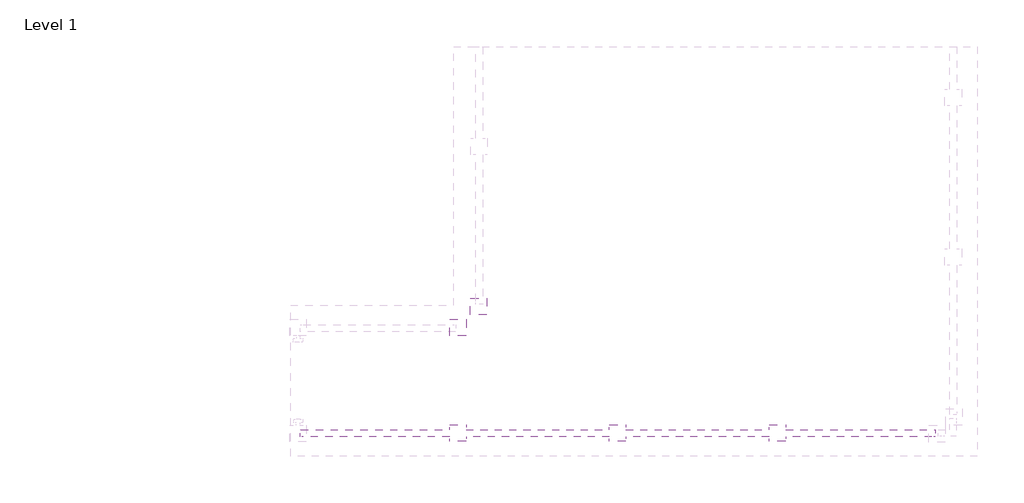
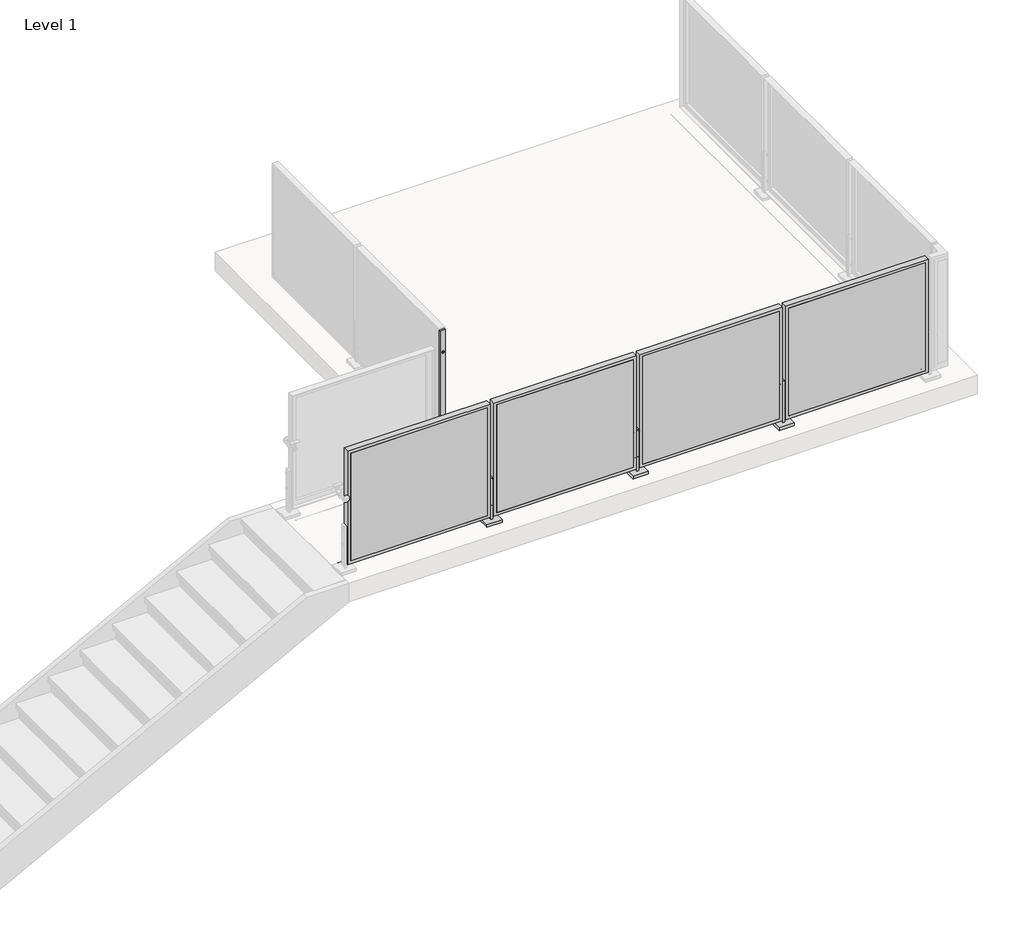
# One storey, part 8 of 37: 2 proxies, 1 railing.
"""IFC4 building model written with IfcOpenShell, lengths in millimetres."""

from ifc_helpers import new_model, si_unit, point, frame, frame_2d, origin, place, context, project, spatial, polyline, circle_curve, trimmed, segment, composite_curve, outline, extrude, faceted_brep, transform, mapped, element, save
from ifc_brep_helpers import plane_surface, cylinder_surface, advanced_brep
from components import baluster_end_post_viva_frame_top_mount_efd1a991, baluster_end_post_viva_frame_top_mount_8495f7c5

model = new_model("IFC4")

# Units and contexts
model_context = context("Model", 3, world=origin())
ifc_project = project(units=[si_unit("LENGTHUNIT", "METRE", prefix="MILLI")], contexts=[model_context])

# Site, building, storey
site = spatial("IfcSite", under=ifc_project)
building = spatial("IfcBuilding", under=site)
storey = spatial("IfcBuildingStorey", under=building, Name="Level 1", Elevation=0.0)

# Proxies
placement = place(None, origin())
baluster_end_post_viva_frame_top_mount_shape = baluster_end_post_viva_frame_top_mount_efd1a991(model_context)
element("IfcBuildingElementProxy", 1, Name="Baluster-End-Post-VIVA-FRAME-Top Mount : ANCHORED TO CONCRETE_TOP MOUNT FOLD_STRAIGHT", ObjectType="Baluster-End-Post-VIVA-FRAME-Top Mount : ANCHORED TO CONCRETE_TOP MOUNT FOLD_STRAIGHT", at=placement, inside=storey, context=model_context, shape_type="MappedRepresentation", body=[
    mapped(baluster_end_post_viva_frame_top_mount_shape, transform((-31746.8813244, -17681.7668664, 3047.492), x_axis=(-1.0, 0.0, 0.0), y_axis=(0.0, -1.0, 0.0), z_axis=(0.0, 0.0, 1.0))),
])
baluster_end_post_viva_frame_top_mount_2_shape = baluster_end_post_viva_frame_top_mount_8495f7c5(model_context)
element("IfcBuildingElementProxy", 2, Name="Baluster-End-Post-VIVA-FRAME-Top Mount : ANCHORED TO CONCRETE_TOP MOUNT FOLD_STRAIGHT", ObjectType="Baluster-End-Post-VIVA-FRAME-Top Mount : ANCHORED TO CONCRETE_TOP MOUNT FOLD_STRAIGHT", at=placement, inside=storey, context=model_context, shape_type="MappedRepresentation", body=[
    mapped(baluster_end_post_viva_frame_top_mount_2_shape, transform((-31481.1959244, -17412.2829234, 3047.492), x_axis=(0.0, -1.0, 0.0), y_axis=(1.0, 0.0, 0.0), z_axis=(0.0, 0.0, 1.0))),
])

# Railing
element("IfcRailing", 3, ObjectType="Metal-Panel-VIVA-FRAME-Slab-Top-Anchor-Straight", at=placement, inside=storey, context=model_context, shape_type="SolidModel", body=[
    extrude(outline(composite_curve([segment(trimmed(circle_curve(frame_2d((-18323.6294547, 3047.746)), 0.254), [point((-18323.8834547, 3047.746))], [point((-18323.3754547, 3047.746))], False, "CARTESIAN"), True, "CONTINUOUS"), segment(trimmed(circle_curve(frame_2d((-18323.6294547, 3047.746)), 0.254), [point((-18323.3754547, 3047.746))], [point((-18323.8834547, 3047.746))], False, "CARTESIAN"), True, "CONTINUOUS")], self_intersect=False)), frame((-33016.8813244, 0.0, 0.0), z_axis=(1.0, 0.0, 0.0), x_axis=(0.0, 1.0, 0.0)), (0.0, 0.0, 1.0), 5080.0),
    extrude(outline(composite_curve([segment(trimmed(circle_curve(frame_2d((-18323.6294547, 3047.746)), 0.254), [point((-18323.8834547, 3047.746))], [point((-18323.3754547, 3047.746))], False, "CARTESIAN"), True, "CONTINUOUS"), segment(trimmed(circle_curve(frame_2d((-18323.6294547, 3047.746)), 0.254), [point((-18323.3754547, 3047.746))], [point((-18323.8834547, 3047.746))], False, "CARTESIAN"), True, "CONTINUOUS")], self_intersect=False)), frame((-33016.8813244, 0.0, 0.0), z_axis=(1.0, 0.0, 0.0), x_axis=(0.0, 1.0, 0.0)), (0.0, 0.0, 1.0), 5080.0),
    extrude(outline(polyline([(-29166.0548675, -18446.4398547), (-29166.0548675, -18443.4398547), (-27977.7077814, -18443.4398547), (-27977.7077814, -18446.4398547), (-29166.0548675, -18446.4398547)])), frame((0.0, 0.0, 3124.1959569), z_axis=(0.0, 0.0, 1.0), x_axis=(1.0, 0.0, 0.0)), (0.0, 0.0, 1.0), 990.5826861),
    faceted_brep([(-29191.4548675, -18446.4398547, 4140.1786431), (-29191.4548675, -18446.4398547, 3098.7959569), (-27952.3077814, -18446.4398547, 3098.7959569), (-27952.3077814, -18446.4398547, 4140.1786431), (-29166.0548675, -18446.4398547, 4114.7786431), (-27977.7077814, -18446.4398547, 4114.7786431), (-27977.7077814, -18446.4398547, 3124.1959569), (-29166.0548675, -18446.4398547, 3124.1959569), (-27977.7077814, -18443.4398547, 3124.1959569), (-29166.0548675, -18443.4398547, 3124.1959569), (-27977.7077814, -18443.4398547, 4114.7786431), (-29166.0548675, -18443.4398547, 4114.7786431), (-29185.4604675, -18392.6398547, 3104.7903569), (-29185.4604675, -18423.4500547, 3104.7903569), (-27958.3021814, -18423.4500547, 3104.7903569), (-27958.3021814, -18392.6398547, 3104.7903569), (-27958.3021814, -18423.4500547, 4134.1842431), (-27958.3021814, -18392.6398547, 4134.1842431), (-29185.4604675, -18392.6398547, 4134.1842431), (-29185.4604675, -18423.4500547, 4134.1842431), (-27952.3077814, -18392.6398547, 3098.7959569), (-29191.4548675, -18392.6398547, 3098.7959569), (-29191.4548675, -18392.6398547, 4140.1786431), (-27952.3077814, -18392.6398547, 4140.1786431), (-29140.6548675, -18443.4398547, 4089.3786431), (-28003.1077814, -18443.4398547, 4089.3786431), (-28003.1077814, -18443.4398547, 3149.5959569), (-29140.6548675, -18443.4398547, 3149.5959569), (-28003.1077814, -18423.4500547, 3149.5959569), (-28003.1077814, -18423.4500547, 4089.3786431), (-29140.6548675, -18423.4500547, 4089.3786431), (-29140.6548675, -18423.4500547, 3149.5959569)], [[[0, 1, 2, 3], [4, 5, 6, 7]], [[7, 6, 8, 9]], [[6, 5, 10, 8]], [[5, 4, 11, 10]], [[4, 7, 9, 11]], [[12, 13, 14, 15]], [[15, 14, 16, 17]], [[13, 12, 18, 19]], [[20, 21, 22, 23], [12, 15, 17, 18]], [[21, 1, 0, 22]], [[21, 20, 2, 1]], [[2, 20, 23, 3]], [[22, 0, 3, 23]], [[11, 9, 8, 10], [24, 25, 26, 27]], [[14, 13, 19, 16], [28, 29, 30, 31]], [[19, 18, 17, 16]], [[25, 24, 30, 29]], [[26, 25, 29, 28]], [[27, 26, 28, 31]], [[24, 27, 31, 30]]]),
    advanced_brep(
    [(-29233.0687244, -18419.5398547, 3178.1496), (-29233.0687244, -18419.5398547, 3197.2504), (-29233.0687244, -18419.5398547, 3187.7), (-29228.2935244, -18419.5398547, 3178.1496), (-29228.2935244, -18419.5398547, 3197.2504), (-29228.2935244, -18419.5398547, 3182.9248), (-29228.2935244, -18419.5398547, 3192.4752), (-29185.4691244, -18419.5398547, 3182.9248), (-29185.4691244, -18419.5398547, 3192.4752), (-29185.4691244, -18419.5398547, 3178.1496), (-29185.4691244, -18419.5398547, 3197.2504), (-29180.6939244, -18419.5398547, 3178.1496), (-29180.6939244, -18419.5398547, 3197.2504), (-29180.6939244, -18419.5398547, 3187.7)],
    [
        (0, 1, circle_curve(frame((-29233.0687244, -18419.5398547, 3187.7), z_axis=(-1.0, 0.0, 0.0), x_axis=(0.0, 0.0, 1.0)), 9.5504)),
        (1, 2),
        (2, 0),
        (1, 0, circle_curve(frame((-29233.0687244, -18419.5398547, 3187.7), z_axis=(-1.0, 0.0, 0.0), x_axis=(0.0, 0.0, 1.0)), 9.5504)),
        (3, 4, circle_curve(frame((-29228.2935244, -18419.5398547, 3187.7), z_axis=(-1.0, 0.0, 0.0), x_axis=(0.0, 0.0, 1.0)), 9.5504)),
        (4, 1),
        (0, 3),
        (4, 3, circle_curve(frame((-29228.2935244, -18419.5398547, 3187.7), z_axis=(-1.0, 0.0, 0.0), x_axis=(0.0, 0.0, 1.0)), 9.5504)),
        (5, 6, circle_curve(frame((-29228.2935244, -18419.5398547, 3187.7), z_axis=(-1.0, 0.0, 0.0), x_axis=(0.0, 0.0, 1.0)), 4.7752)),
        (6, 4),
        (3, 5),
        (6, 5, circle_curve(frame((-29228.2935244, -18419.5398547, 3187.7), z_axis=(-1.0, 0.0, 0.0), x_axis=(0.0, 0.0, 1.0)), 4.7752)),
        (7, 8, circle_curve(frame((-29185.4691244, -18419.5398547, 3187.7), z_axis=(-1.0, 0.0, 0.0), x_axis=(0.0, 0.0, 1.0)), 4.7752)),
        (8, 6),
        (5, 7),
        (8, 7, circle_curve(frame((-29185.4691244, -18419.5398547, 3187.7), z_axis=(-1.0, 0.0, 0.0), x_axis=(0.0, 0.0, 1.0)), 4.7752)),
        (9, 10, circle_curve(frame((-29185.4691244, -18419.5398547, 3187.7), z_axis=(-1.0, 0.0, 0.0), x_axis=(0.0, 0.0, 1.0)), 9.5504)),
        (10, 8),
        (7, 9),
        (10, 9, circle_curve(frame((-29185.4691244, -18419.5398547, 3187.7), z_axis=(-1.0, 0.0, 0.0), x_axis=(0.0, 0.0, 1.0)), 9.5504)),
        (11, 12, circle_curve(frame((-29180.6939244, -18419.5398547, 3187.7), z_axis=(-1.0, 0.0, 0.0), x_axis=(0.0, 0.0, 1.0)), 9.5504)),
        (12, 10),
        (9, 11),
        (12, 11, circle_curve(frame((-29180.6939244, -18419.5398547, 3187.7), z_axis=(-1.0, 0.0, 0.0), x_axis=(0.0, 0.0, 1.0)), 9.5504)),
        (13, 12),
        (11, 13),
    ],
    [
        plane_surface(frame((-29233.0687244, -18419.5398547, 3187.7), z_axis=(-1.0, 0.0, 0.0), x_axis=(0.0, 0.0, 1.0))),
        cylinder_surface(frame((-32624.6490816, -18419.5398547, 3187.7), z_axis=(1.0, 0.0, 0.0), x_axis=(0.0, 0.0, 1.0)), 9.5504),
        plane_surface(frame((-29228.2935244, -18419.5398547, 3187.7), z_axis=(1.0, 0.0, 0.0), x_axis=(0.0, 0.0, 1.0))),
        cylinder_surface(frame((-32624.6490816, -18419.5398547, 3187.7), z_axis=(1.0, 0.0, 0.0), x_axis=(0.0, 0.0, 1.0)), 4.7752),
        plane_surface(frame((-29185.4691244, -18419.5398547, 3187.7), z_axis=(-1.0, 0.0, 0.0), x_axis=(0.0, 0.0, 1.0))),
        plane_surface(frame((-29180.6939244, -18419.5398547, 3187.7), z_axis=(1.0, 0.0, 0.0), x_axis=(0.0, 0.0, 1.0))),
    ],
    [
        (0, [[1, 2, 3]]),
        (0, [[4, -3, -2]]),
        (1, [[5, 6, -1, 7]]),
        (1, [[8, -7, -4, -6]]),
        (2, [[9, 10, -5, 11]]),
        (2, [[12, -11, -8, -10]]),
        (3, [[13, 14, -9, 15]]),
        (3, [[16, -15, -12, -14]]),
        (4, [[17, 18, -13, 19]]),
        (4, [[20, -19, -16, -18]]),
        (1, [[21, 22, -17, 23]]),
        (1, [[24, -23, -20, -22]]),
        (5, [[25, -21, 26]]),
        (5, [[-26, -24, -25]]),
    ],
),
    advanced_brep(
    [(-29233.0687244, -18419.5398547, 3419.4496), (-29233.0687244, -18419.5398547, 3438.5504), (-29233.0687244, -18419.5398547, 3429.0), (-29228.2935244, -18419.5398547, 3419.4496), (-29228.2935244, -18419.5398547, 3438.5504), (-29228.2935244, -18419.5398547, 3424.2248), (-29228.2935244, -18419.5398547, 3433.7752), (-29185.4691244, -18419.5398547, 3424.2248), (-29185.4691244, -18419.5398547, 3433.7752), (-29185.4691244, -18419.5398547, 3419.4496), (-29185.4691244, -18419.5398547, 3438.5504), (-29180.6939244, -18419.5398547, 3419.4496), (-29180.6939244, -18419.5398547, 3438.5504), (-29180.6939244, -18419.5398547, 3429.0)],
    [
        (0, 1, circle_curve(frame((-29233.0687244, -18419.5398547, 3429.0), z_axis=(-1.0, 0.0, 0.0), x_axis=(0.0, 0.0, 1.0)), 9.5504)),
        (1, 2),
        (2, 0),
        (1, 0, circle_curve(frame((-29233.0687244, -18419.5398547, 3429.0), z_axis=(-1.0, 0.0, 0.0), x_axis=(0.0, 0.0, 1.0)), 9.5504)),
        (3, 4, circle_curve(frame((-29228.2935244, -18419.5398547, 3429.0), z_axis=(-1.0, 0.0, 0.0), x_axis=(0.0, 0.0, 1.0)), 9.5504)),
        (4, 1),
        (0, 3),
        (4, 3, circle_curve(frame((-29228.2935244, -18419.5398547, 3429.0), z_axis=(-1.0, 0.0, 0.0), x_axis=(0.0, 0.0, 1.0)), 9.5504)),
        (5, 6, circle_curve(frame((-29228.2935244, -18419.5398547, 3429.0), z_axis=(-1.0, 0.0, 0.0), x_axis=(0.0, 0.0, 1.0)), 4.7752)),
        (6, 4),
        (3, 5),
        (6, 5, circle_curve(frame((-29228.2935244, -18419.5398547, 3429.0), z_axis=(-1.0, 0.0, 0.0), x_axis=(0.0, 0.0, 1.0)), 4.7752)),
        (7, 8, circle_curve(frame((-29185.4691244, -18419.5398547, 3429.0), z_axis=(-1.0, 0.0, 0.0), x_axis=(0.0, 0.0, 1.0)), 4.7752)),
        (8, 6),
        (5, 7),
        (8, 7, circle_curve(frame((-29185.4691244, -18419.5398547, 3429.0), z_axis=(-1.0, 0.0, 0.0), x_axis=(0.0, 0.0, 1.0)), 4.7752)),
        (9, 10, circle_curve(frame((-29185.4691244, -18419.5398547, 3429.0), z_axis=(-1.0, 0.0, 0.0), x_axis=(0.0, 0.0, 1.0)), 9.5504)),
        (10, 8),
        (7, 9),
        (10, 9, circle_curve(frame((-29185.4691244, -18419.5398547, 3429.0), z_axis=(-1.0, 0.0, 0.0), x_axis=(0.0, 0.0, 1.0)), 9.5504)),
        (11, 12, circle_curve(frame((-29180.6939244, -18419.5398547, 3429.0), z_axis=(-1.0, 0.0, 0.0), x_axis=(0.0, 0.0, 1.0)), 9.5504)),
        (12, 10),
        (9, 11),
        (12, 11, circle_curve(frame((-29180.6939244, -18419.5398547, 3429.0), z_axis=(-1.0, 0.0, 0.0), x_axis=(0.0, 0.0, 1.0)), 9.5504)),
        (13, 12),
        (11, 13),
    ],
    [
        plane_surface(frame((-29233.0687244, -18419.5398547, 3429.0), z_axis=(-1.0, 0.0, 0.0), x_axis=(0.0, 0.0, 1.0))),
        cylinder_surface(frame((-32624.6490816, -18419.5398547, 3429.0), z_axis=(1.0, 0.0, 0.0), x_axis=(0.0, 0.0, 1.0)), 9.5504),
        plane_surface(frame((-29228.2935244, -18419.5398547, 3429.0), z_axis=(1.0, 0.0, 0.0), x_axis=(0.0, 0.0, 1.0))),
        cylinder_surface(frame((-32624.6490816, -18419.5398547, 3429.0), z_axis=(1.0, 0.0, 0.0), x_axis=(0.0, 0.0, 1.0)), 4.7752),
        plane_surface(frame((-29185.4691244, -18419.5398547, 3429.0), z_axis=(-1.0, 0.0, 0.0), x_axis=(0.0, 0.0, 1.0))),
        plane_surface(frame((-29180.6939244, -18419.5398547, 3429.0), z_axis=(1.0, 0.0, 0.0), x_axis=(0.0, 0.0, 1.0))),
    ],
    [
        (0, [[1, 2, 3]]),
        (0, [[4, -3, -2]]),
        (1, [[5, 6, -1, 7]]),
        (1, [[8, -7, -4, -6]]),
        (2, [[9, 10, -5, 11]]),
        (2, [[12, -11, -8, -10]]),
        (3, [[13, 14, -9, 15]]),
        (3, [[16, -15, -12, -14]]),
        (4, [[17, 18, -13, 19]]),
        (4, [[20, -19, -16, -18]]),
        (1, [[21, 22, -17, 23]]),
        (1, [[24, -23, -20, -22]]),
        (5, [[25, -21, 26]]),
        (5, [[-26, -24, -25]]),
    ],
),
    extrude(outline(polyline([(-29272.7689244, -18353.6522547), (-29140.9937244, -18353.6522547), (-29140.9937244, -18485.4274547), (-29272.7689244, -18485.4274547), (-29272.7689244, -18353.6522547)])), frame((0.0, 0.0, 3048.0), z_axis=(0.0, 0.0, 1.0), x_axis=(1.0, 0.0, 0.0)), (0.0, 0.0, 1.0), 25.4),
    extrude(outline(polyline([(-29214.8209161, -18397.3148547), (-29198.9417328, -18397.3148547), (-29198.9417328, -18441.7648547), (-29214.8209161, -18441.7648547), (-29214.8209161, -18397.3148547)])), frame((0.0, 0.0, 3048.0), z_axis=(0.0, 0.0, 1.0), x_axis=(1.0, 0.0, 0.0)), (0.0, 0.0, 1.0), 406.4),
    extrude(outline(polyline([(-30436.0548675, -18446.4398547), (-30436.0548675, -18443.4398547), (-29247.7077814, -18443.4398547), (-29247.7077814, -18446.4398547), (-30436.0548675, -18446.4398547)])), frame((0.0, 0.0, 3124.1959569), z_axis=(0.0, 0.0, 1.0), x_axis=(1.0, 0.0, 0.0)), (0.0, 0.0, 1.0), 990.5826861),
    faceted_brep([(-30461.4548675, -18446.4398547, 4140.1786431), (-30461.4548675, -18446.4398547, 3098.7959569), (-29222.3077814, -18446.4398547, 3098.7959569), (-29222.3077814, -18446.4398547, 4140.1786431), (-30436.0548675, -18446.4398547, 4114.7786431), (-29247.7077814, -18446.4398547, 4114.7786431), (-29247.7077814, -18446.4398547, 3124.1959569), (-30436.0548675, -18446.4398547, 3124.1959569), (-29247.7077814, -18443.4398547, 3124.1959569), (-30436.0548675, -18443.4398547, 3124.1959569), (-29247.7077814, -18443.4398547, 4114.7786431), (-30436.0548675, -18443.4398547, 4114.7786431), (-30455.4604675, -18392.6398547, 3104.7903569), (-30455.4604675, -18423.4500547, 3104.7903569), (-29228.3021814, -18423.4500547, 3104.7903569), (-29228.3021814, -18392.6398547, 3104.7903569), (-29228.3021814, -18423.4500547, 4134.1842431), (-29228.3021814, -18392.6398547, 4134.1842431), (-30455.4604675, -18392.6398547, 4134.1842431), (-30455.4604675, -18423.4500547, 4134.1842431), (-29222.3077814, -18392.6398547, 3098.7959569), (-30461.4548675, -18392.6398547, 3098.7959569), (-30461.4548675, -18392.6398547, 4140.1786431), (-29222.3077814, -18392.6398547, 4140.1786431), (-30410.6548675, -18443.4398547, 4089.3786431), (-29273.1077814, -18443.4398547, 4089.3786431), (-29273.1077814, -18443.4398547, 3149.5959569), (-30410.6548675, -18443.4398547, 3149.5959569), (-29273.1077814, -18423.4500547, 3149.5959569), (-29273.1077814, -18423.4500547, 4089.3786431), (-30410.6548675, -18423.4500547, 4089.3786431), (-30410.6548675, -18423.4500547, 3149.5959569)], [[[0, 1, 2, 3], [4, 5, 6, 7]], [[7, 6, 8, 9]], [[6, 5, 10, 8]], [[5, 4, 11, 10]], [[4, 7, 9, 11]], [[12, 13, 14, 15]], [[15, 14, 16, 17]], [[13, 12, 18, 19]], [[20, 21, 22, 23], [12, 15, 17, 18]], [[21, 1, 0, 22]], [[21, 20, 2, 1]], [[2, 20, 23, 3]], [[22, 0, 3, 23]], [[11, 9, 8, 10], [24, 25, 26, 27]], [[14, 13, 19, 16], [28, 29, 30, 31]], [[19, 18, 17, 16]], [[25, 24, 30, 29]], [[26, 25, 29, 28]], [[27, 26, 28, 31]], [[24, 27, 31, 30]]]),
    advanced_brep(
    [(-30503.0687244, -18419.5398547, 3178.1496), (-30503.0687244, -18419.5398547, 3197.2504), (-30503.0687244, -18419.5398547, 3187.7), (-30498.2935244, -18419.5398547, 3178.1496), (-30498.2935244, -18419.5398547, 3197.2504), (-30498.2935244, -18419.5398547, 3182.9248), (-30498.2935244, -18419.5398547, 3192.4752), (-30455.4691244, -18419.5398547, 3182.9248), (-30455.4691244, -18419.5398547, 3192.4752), (-30455.4691244, -18419.5398547, 3178.1496), (-30455.4691244, -18419.5398547, 3197.2504), (-30450.6939244, -18419.5398547, 3178.1496), (-30450.6939244, -18419.5398547, 3197.2504), (-30450.6939244, -18419.5398547, 3187.7)],
    [
        (0, 1, circle_curve(frame((-30503.0687244, -18419.5398547, 3187.7), z_axis=(-1.0, 0.0, 0.0), x_axis=(0.0, 0.0, 1.0)), 9.5504)),
        (1, 2),
        (2, 0),
        (1, 0, circle_curve(frame((-30503.0687244, -18419.5398547, 3187.7), z_axis=(-1.0, 0.0, 0.0), x_axis=(0.0, 0.0, 1.0)), 9.5504)),
        (3, 4, circle_curve(frame((-30498.2935244, -18419.5398547, 3187.7), z_axis=(-1.0, 0.0, 0.0), x_axis=(0.0, 0.0, 1.0)), 9.5504)),
        (4, 1),
        (0, 3),
        (4, 3, circle_curve(frame((-30498.2935244, -18419.5398547, 3187.7), z_axis=(-1.0, 0.0, 0.0), x_axis=(0.0, 0.0, 1.0)), 9.5504)),
        (5, 6, circle_curve(frame((-30498.2935244, -18419.5398547, 3187.7), z_axis=(-1.0, 0.0, 0.0), x_axis=(0.0, 0.0, 1.0)), 4.7752)),
        (6, 4),
        (3, 5),
        (6, 5, circle_curve(frame((-30498.2935244, -18419.5398547, 3187.7), z_axis=(-1.0, 0.0, 0.0), x_axis=(0.0, 0.0, 1.0)), 4.7752)),
        (7, 8, circle_curve(frame((-30455.4691244, -18419.5398547, 3187.7), z_axis=(-1.0, 0.0, 0.0), x_axis=(0.0, 0.0, 1.0)), 4.7752)),
        (8, 6),
        (5, 7),
        (8, 7, circle_curve(frame((-30455.4691244, -18419.5398547, 3187.7), z_axis=(-1.0, 0.0, 0.0), x_axis=(0.0, 0.0, 1.0)), 4.7752)),
        (9, 10, circle_curve(frame((-30455.4691244, -18419.5398547, 3187.7), z_axis=(-1.0, 0.0, 0.0), x_axis=(0.0, 0.0, 1.0)), 9.5504)),
        (10, 8),
        (7, 9),
        (10, 9, circle_curve(frame((-30455.4691244, -18419.5398547, 3187.7), z_axis=(-1.0, 0.0, 0.0), x_axis=(0.0, 0.0, 1.0)), 9.5504)),
        (11, 12, circle_curve(frame((-30450.6939244, -18419.5398547, 3187.7), z_axis=(-1.0, 0.0, 0.0), x_axis=(0.0, 0.0, 1.0)), 9.5504)),
        (12, 10),
        (9, 11),
        (12, 11, circle_curve(frame((-30450.6939244, -18419.5398547, 3187.7), z_axis=(-1.0, 0.0, 0.0), x_axis=(0.0, 0.0, 1.0)), 9.5504)),
        (13, 12),
        (11, 13),
    ],
    [
        plane_surface(frame((-30503.0687244, -18419.5398547, 3187.7), z_axis=(-1.0, 0.0, 0.0), x_axis=(0.0, 0.0, 1.0))),
        cylinder_surface(frame((-33894.6490816, -18419.5398547, 3187.7), z_axis=(1.0, 0.0, 0.0), x_axis=(0.0, 0.0, 1.0)), 9.5504),
        plane_surface(frame((-30498.2935244, -18419.5398547, 3187.7), z_axis=(1.0, 0.0, 0.0), x_axis=(0.0, 0.0, 1.0))),
        cylinder_surface(frame((-33894.6490816, -18419.5398547, 3187.7), z_axis=(1.0, 0.0, 0.0), x_axis=(0.0, 0.0, 1.0)), 4.7752),
        plane_surface(frame((-30455.4691244, -18419.5398547, 3187.7), z_axis=(-1.0, 0.0, 0.0), x_axis=(0.0, 0.0, 1.0))),
        plane_surface(frame((-30450.6939244, -18419.5398547, 3187.7), z_axis=(1.0, 0.0, 0.0), x_axis=(0.0, 0.0, 1.0))),
    ],
    [
        (0, [[1, 2, 3]]),
        (0, [[4, -3, -2]]),
        (1, [[5, 6, -1, 7]]),
        (1, [[8, -7, -4, -6]]),
        (2, [[9, 10, -5, 11]]),
        (2, [[12, -11, -8, -10]]),
        (3, [[13, 14, -9, 15]]),
        (3, [[16, -15, -12, -14]]),
        (4, [[17, 18, -13, 19]]),
        (4, [[20, -19, -16, -18]]),
        (1, [[21, 22, -17, 23]]),
        (1, [[24, -23, -20, -22]]),
        (5, [[25, -21, 26]]),
        (5, [[-26, -24, -25]]),
    ],
),
    advanced_brep(
    [(-30503.0687244, -18419.5398547, 3419.4496), (-30503.0687244, -18419.5398547, 3438.5504), (-30503.0687244, -18419.5398547, 3429.0), (-30498.2935244, -18419.5398547, 3419.4496), (-30498.2935244, -18419.5398547, 3438.5504), (-30498.2935244, -18419.5398547, 3424.2248), (-30498.2935244, -18419.5398547, 3433.7752), (-30455.4691244, -18419.5398547, 3424.2248), (-30455.4691244, -18419.5398547, 3433.7752), (-30455.4691244, -18419.5398547, 3419.4496), (-30455.4691244, -18419.5398547, 3438.5504), (-30450.6939244, -18419.5398547, 3419.4496), (-30450.6939244, -18419.5398547, 3438.5504), (-30450.6939244, -18419.5398547, 3429.0)],
    [
        (0, 1, circle_curve(frame((-30503.0687244, -18419.5398547, 3429.0), z_axis=(-1.0, 0.0, 0.0), x_axis=(0.0, 0.0, 1.0)), 9.5504)),
        (1, 2),
        (2, 0),
        (1, 0, circle_curve(frame((-30503.0687244, -18419.5398547, 3429.0), z_axis=(-1.0, 0.0, 0.0), x_axis=(0.0, 0.0, 1.0)), 9.5504)),
        (3, 4, circle_curve(frame((-30498.2935244, -18419.5398547, 3429.0), z_axis=(-1.0, 0.0, 0.0), x_axis=(0.0, 0.0, 1.0)), 9.5504)),
        (4, 1),
        (0, 3),
        (4, 3, circle_curve(frame((-30498.2935244, -18419.5398547, 3429.0), z_axis=(-1.0, 0.0, 0.0), x_axis=(0.0, 0.0, 1.0)), 9.5504)),
        (5, 6, circle_curve(frame((-30498.2935244, -18419.5398547, 3429.0), z_axis=(-1.0, 0.0, 0.0), x_axis=(0.0, 0.0, 1.0)), 4.7752)),
        (6, 4),
        (3, 5),
        (6, 5, circle_curve(frame((-30498.2935244, -18419.5398547, 3429.0), z_axis=(-1.0, 0.0, 0.0), x_axis=(0.0, 0.0, 1.0)), 4.7752)),
        (7, 8, circle_curve(frame((-30455.4691244, -18419.5398547, 3429.0), z_axis=(-1.0, 0.0, 0.0), x_axis=(0.0, 0.0, 1.0)), 4.7752)),
        (8, 6),
        (5, 7),
        (8, 7, circle_curve(frame((-30455.4691244, -18419.5398547, 3429.0), z_axis=(-1.0, 0.0, 0.0), x_axis=(0.0, 0.0, 1.0)), 4.7752)),
        (9, 10, circle_curve(frame((-30455.4691244, -18419.5398547, 3429.0), z_axis=(-1.0, 0.0, 0.0), x_axis=(0.0, 0.0, 1.0)), 9.5504)),
        (10, 8),
        (7, 9),
        (10, 9, circle_curve(frame((-30455.4691244, -18419.5398547, 3429.0), z_axis=(-1.0, 0.0, 0.0), x_axis=(0.0, 0.0, 1.0)), 9.5504)),
        (11, 12, circle_curve(frame((-30450.6939244, -18419.5398547, 3429.0), z_axis=(-1.0, 0.0, 0.0), x_axis=(0.0, 0.0, 1.0)), 9.5504)),
        (12, 10),
        (9, 11),
        (12, 11, circle_curve(frame((-30450.6939244, -18419.5398547, 3429.0), z_axis=(-1.0, 0.0, 0.0), x_axis=(0.0, 0.0, 1.0)), 9.5504)),
        (13, 12),
        (11, 13),
    ],
    [
        plane_surface(frame((-30503.0687244, -18419.5398547, 3429.0), z_axis=(-1.0, 0.0, 0.0), x_axis=(0.0, 0.0, 1.0))),
        cylinder_surface(frame((-33894.6490816, -18419.5398547, 3429.0), z_axis=(1.0, 0.0, 0.0), x_axis=(0.0, 0.0, 1.0)), 9.5504),
        plane_surface(frame((-30498.2935244, -18419.5398547, 3429.0), z_axis=(1.0, 0.0, 0.0), x_axis=(0.0, 0.0, 1.0))),
        cylinder_surface(frame((-33894.6490816, -18419.5398547, 3429.0), z_axis=(1.0, 0.0, 0.0), x_axis=(0.0, 0.0, 1.0)), 4.7752),
        plane_surface(frame((-30455.4691244, -18419.5398547, 3429.0), z_axis=(-1.0, 0.0, 0.0), x_axis=(0.0, 0.0, 1.0))),
        plane_surface(frame((-30450.6939244, -18419.5398547, 3429.0), z_axis=(1.0, 0.0, 0.0), x_axis=(0.0, 0.0, 1.0))),
    ],
    [
        (0, [[1, 2, 3]]),
        (0, [[4, -3, -2]]),
        (1, [[5, 6, -1, 7]]),
        (1, [[8, -7, -4, -6]]),
        (2, [[9, 10, -5, 11]]),
        (2, [[12, -11, -8, -10]]),
        (3, [[13, 14, -9, 15]]),
        (3, [[16, -15, -12, -14]]),
        (4, [[17, 18, -13, 19]]),
        (4, [[20, -19, -16, -18]]),
        (1, [[21, 22, -17, 23]]),
        (1, [[24, -23, -20, -22]]),
        (5, [[25, -21, 26]]),
        (5, [[-26, -24, -25]]),
    ],
),
    extrude(outline(polyline([(-30542.7689244, -18353.6522547), (-30410.9937244, -18353.6522547), (-30410.9937244, -18485.4274547), (-30542.7689244, -18485.4274547), (-30542.7689244, -18353.6522547)])), frame((0.0, 0.0, 3048.0), z_axis=(0.0, 0.0, 1.0), x_axis=(1.0, 0.0, 0.0)), (0.0, 0.0, 1.0), 25.4),
    extrude(outline(polyline([(-30484.8209161, -18397.3148547), (-30468.9417328, -18397.3148547), (-30468.9417328, -18441.7648547), (-30484.8209161, -18441.7648547), (-30484.8209161, -18397.3148547)])), frame((0.0, 0.0, 3048.0), z_axis=(0.0, 0.0, 1.0), x_axis=(1.0, 0.0, 0.0)), (0.0, 0.0, 1.0), 406.4),
    extrude(outline(polyline([(-31706.0548675, -18446.4398547), (-31706.0548675, -18443.4398547), (-30517.7077814, -18443.4398547), (-30517.7077814, -18446.4398547), (-31706.0548675, -18446.4398547)])), frame((0.0, 0.0, 3124.1959569), z_axis=(0.0, 0.0, 1.0), x_axis=(1.0, 0.0, 0.0)), (0.0, 0.0, 1.0), 990.5826861),
    faceted_brep([(-31731.4548675, -18446.4398547, 4140.1786431), (-31731.4548675, -18446.4398547, 3098.7959569), (-30492.3077814, -18446.4398547, 3098.7959569), (-30492.3077814, -18446.4398547, 4140.1786431), (-31706.0548675, -18446.4398547, 4114.7786431), (-30517.7077814, -18446.4398547, 4114.7786431), (-30517.7077814, -18446.4398547, 3124.1959569), (-31706.0548675, -18446.4398547, 3124.1959569), (-30517.7077814, -18443.4398547, 3124.1959569), (-31706.0548675, -18443.4398547, 3124.1959569), (-30517.7077814, -18443.4398547, 4114.7786431), (-31706.0548675, -18443.4398547, 4114.7786431), (-31725.4604675, -18392.6398547, 3104.7903569), (-31725.4604675, -18423.4500547, 3104.7903569), (-30498.3021814, -18423.4500547, 3104.7903569), (-30498.3021814, -18392.6398547, 3104.7903569), (-30498.3021814, -18423.4500547, 4134.1842431), (-30498.3021814, -18392.6398547, 4134.1842431), (-31725.4604675, -18392.6398547, 4134.1842431), (-31725.4604675, -18423.4500547, 4134.1842431), (-30492.3077814, -18392.6398547, 3098.7959569), (-31731.4548675, -18392.6398547, 3098.7959569), (-31731.4548675, -18392.6398547, 4140.1786431), (-30492.3077814, -18392.6398547, 4140.1786431), (-31680.6548675, -18443.4398547, 4089.3786431), (-30543.1077814, -18443.4398547, 4089.3786431), (-30543.1077814, -18443.4398547, 3149.5959569), (-31680.6548675, -18443.4398547, 3149.5959569), (-30543.1077814, -18423.4500547, 3149.5959569), (-30543.1077814, -18423.4500547, 4089.3786431), (-31680.6548675, -18423.4500547, 4089.3786431), (-31680.6548675, -18423.4500547, 3149.5959569)], [[[0, 1, 2, 3], [4, 5, 6, 7]], [[7, 6, 8, 9]], [[6, 5, 10, 8]], [[5, 4, 11, 10]], [[4, 7, 9, 11]], [[12, 13, 14, 15]], [[15, 14, 16, 17]], [[13, 12, 18, 19]], [[20, 21, 22, 23], [12, 15, 17, 18]], [[21, 1, 0, 22]], [[21, 20, 2, 1]], [[2, 20, 23, 3]], [[22, 0, 3, 23]], [[11, 9, 8, 10], [24, 25, 26, 27]], [[14, 13, 19, 16], [28, 29, 30, 31]], [[19, 18, 17, 16]], [[25, 24, 30, 29]], [[26, 25, 29, 28]], [[27, 26, 28, 31]], [[24, 27, 31, 30]]]),
    advanced_brep(
    [(-31773.0687244, -18419.5398547, 3178.1496), (-31773.0687244, -18419.5398547, 3197.2504), (-31773.0687244, -18419.5398547, 3187.7), (-31768.2935244, -18419.5398547, 3178.1496), (-31768.2935244, -18419.5398547, 3197.2504), (-31768.2935244, -18419.5398547, 3182.9248), (-31768.2935244, -18419.5398547, 3192.4752), (-31725.4691244, -18419.5398547, 3182.9248), (-31725.4691244, -18419.5398547, 3192.4752), (-31725.4691244, -18419.5398547, 3178.1496), (-31725.4691244, -18419.5398547, 3197.2504), (-31720.6939244, -18419.5398547, 3178.1496), (-31720.6939244, -18419.5398547, 3197.2504), (-31720.6939244, -18419.5398547, 3187.7)],
    [
        (0, 1, circle_curve(frame((-31773.0687244, -18419.5398547, 3187.7), z_axis=(-1.0, 0.0, 0.0), x_axis=(0.0, 0.0, 1.0)), 9.5504)),
        (1, 2),
        (2, 0),
        (1, 0, circle_curve(frame((-31773.0687244, -18419.5398547, 3187.7), z_axis=(-1.0, 0.0, 0.0), x_axis=(0.0, 0.0, 1.0)), 9.5504)),
        (3, 4, circle_curve(frame((-31768.2935244, -18419.5398547, 3187.7), z_axis=(-1.0, 0.0, 0.0), x_axis=(0.0, 0.0, 1.0)), 9.5504)),
        (4, 1),
        (0, 3),
        (4, 3, circle_curve(frame((-31768.2935244, -18419.5398547, 3187.7), z_axis=(-1.0, 0.0, 0.0), x_axis=(0.0, 0.0, 1.0)), 9.5504)),
        (5, 6, circle_curve(frame((-31768.2935244, -18419.5398547, 3187.7), z_axis=(-1.0, 0.0, 0.0), x_axis=(0.0, 0.0, 1.0)), 4.7752)),
        (6, 4),
        (3, 5),
        (6, 5, circle_curve(frame((-31768.2935244, -18419.5398547, 3187.7), z_axis=(-1.0, 0.0, 0.0), x_axis=(0.0, 0.0, 1.0)), 4.7752)),
        (7, 8, circle_curve(frame((-31725.4691244, -18419.5398547, 3187.7), z_axis=(-1.0, 0.0, 0.0), x_axis=(0.0, 0.0, 1.0)), 4.7752)),
        (8, 6),
        (5, 7),
        (8, 7, circle_curve(frame((-31725.4691244, -18419.5398547, 3187.7), z_axis=(-1.0, 0.0, 0.0), x_axis=(0.0, 0.0, 1.0)), 4.7752)),
        (9, 10, circle_curve(frame((-31725.4691244, -18419.5398547, 3187.7), z_axis=(-1.0, 0.0, 0.0), x_axis=(0.0, 0.0, 1.0)), 9.5504)),
        (10, 8),
        (7, 9),
        (10, 9, circle_curve(frame((-31725.4691244, -18419.5398547, 3187.7), z_axis=(-1.0, 0.0, 0.0), x_axis=(0.0, 0.0, 1.0)), 9.5504)),
        (11, 12, circle_curve(frame((-31720.6939244, -18419.5398547, 3187.7), z_axis=(-1.0, 0.0, 0.0), x_axis=(0.0, 0.0, 1.0)), 9.5504)),
        (12, 10),
        (9, 11),
        (12, 11, circle_curve(frame((-31720.6939244, -18419.5398547, 3187.7), z_axis=(-1.0, 0.0, 0.0), x_axis=(0.0, 0.0, 1.0)), 9.5504)),
        (13, 12),
        (11, 13),
    ],
    [
        plane_surface(frame((-31773.0687244, -18419.5398547, 3187.7), z_axis=(-1.0, 0.0, 0.0), x_axis=(0.0, 0.0, 1.0))),
        cylinder_surface(frame((-35164.6490816, -18419.5398547, 3187.7), z_axis=(1.0, 0.0, 0.0), x_axis=(0.0, 0.0, 1.0)), 9.5504),
        plane_surface(frame((-31768.2935244, -18419.5398547, 3187.7), z_axis=(1.0, 0.0, 0.0), x_axis=(0.0, 0.0, 1.0))),
        cylinder_surface(frame((-35164.6490816, -18419.5398547, 3187.7), z_axis=(1.0, 0.0, 0.0), x_axis=(0.0, 0.0, 1.0)), 4.7752),
        plane_surface(frame((-31725.4691244, -18419.5398547, 3187.7), z_axis=(-1.0, 0.0, 0.0), x_axis=(0.0, 0.0, 1.0))),
        plane_surface(frame((-31720.6939244, -18419.5398547, 3187.7), z_axis=(1.0, 0.0, 0.0), x_axis=(0.0, 0.0, 1.0))),
    ],
    [
        (0, [[1, 2, 3]]),
        (0, [[4, -3, -2]]),
        (1, [[5, 6, -1, 7]]),
        (1, [[8, -7, -4, -6]]),
        (2, [[9, 10, -5, 11]]),
        (2, [[12, -11, -8, -10]]),
        (3, [[13, 14, -9, 15]]),
        (3, [[16, -15, -12, -14]]),
        (4, [[17, 18, -13, 19]]),
        (4, [[20, -19, -16, -18]]),
        (1, [[21, 22, -17, 23]]),
        (1, [[24, -23, -20, -22]]),
        (5, [[25, -21, 26]]),
        (5, [[-26, -24, -25]]),
    ],
),
    advanced_brep(
    [(-31773.0687244, -18419.5398547, 3419.4496), (-31773.0687244, -18419.5398547, 3438.5504), (-31773.0687244, -18419.5398547, 3429.0), (-31768.2935244, -18419.5398547, 3419.4496), (-31768.2935244, -18419.5398547, 3438.5504), (-31768.2935244, -18419.5398547, 3424.2248), (-31768.2935244, -18419.5398547, 3433.7752), (-31725.4691244, -18419.5398547, 3424.2248), (-31725.4691244, -18419.5398547, 3433.7752), (-31725.4691244, -18419.5398547, 3419.4496), (-31725.4691244, -18419.5398547, 3438.5504), (-31720.6939244, -18419.5398547, 3419.4496), (-31720.6939244, -18419.5398547, 3438.5504), (-31720.6939244, -18419.5398547, 3429.0)],
    [
        (0, 1, circle_curve(frame((-31773.0687244, -18419.5398547, 3429.0), z_axis=(-1.0, 0.0, 0.0), x_axis=(0.0, 0.0, 1.0)), 9.5504)),
        (1, 2),
        (2, 0),
        (1, 0, circle_curve(frame((-31773.0687244, -18419.5398547, 3429.0), z_axis=(-1.0, 0.0, 0.0), x_axis=(0.0, 0.0, 1.0)), 9.5504)),
        (3, 4, circle_curve(frame((-31768.2935244, -18419.5398547, 3429.0), z_axis=(-1.0, 0.0, 0.0), x_axis=(0.0, 0.0, 1.0)), 9.5504)),
        (4, 1),
        (0, 3),
        (4, 3, circle_curve(frame((-31768.2935244, -18419.5398547, 3429.0), z_axis=(-1.0, 0.0, 0.0), x_axis=(0.0, 0.0, 1.0)), 9.5504)),
        (5, 6, circle_curve(frame((-31768.2935244, -18419.5398547, 3429.0), z_axis=(-1.0, 0.0, 0.0), x_axis=(0.0, 0.0, 1.0)), 4.7752)),
        (6, 4),
        (3, 5),
        (6, 5, circle_curve(frame((-31768.2935244, -18419.5398547, 3429.0), z_axis=(-1.0, 0.0, 0.0), x_axis=(0.0, 0.0, 1.0)), 4.7752)),
        (7, 8, circle_curve(frame((-31725.4691244, -18419.5398547, 3429.0), z_axis=(-1.0, 0.0, 0.0), x_axis=(0.0, 0.0, 1.0)), 4.7752)),
        (8, 6),
        (5, 7),
        (8, 7, circle_curve(frame((-31725.4691244, -18419.5398547, 3429.0), z_axis=(-1.0, 0.0, 0.0), x_axis=(0.0, 0.0, 1.0)), 4.7752)),
        (9, 10, circle_curve(frame((-31725.4691244, -18419.5398547, 3429.0), z_axis=(-1.0, 0.0, 0.0), x_axis=(0.0, 0.0, 1.0)), 9.5504)),
        (10, 8),
        (7, 9),
        (10, 9, circle_curve(frame((-31725.4691244, -18419.5398547, 3429.0), z_axis=(-1.0, 0.0, 0.0), x_axis=(0.0, 0.0, 1.0)), 9.5504)),
        (11, 12, circle_curve(frame((-31720.6939244, -18419.5398547, 3429.0), z_axis=(-1.0, 0.0, 0.0), x_axis=(0.0, 0.0, 1.0)), 9.5504)),
        (12, 10),
        (9, 11),
        (12, 11, circle_curve(frame((-31720.6939244, -18419.5398547, 3429.0), z_axis=(-1.0, 0.0, 0.0), x_axis=(0.0, 0.0, 1.0)), 9.5504)),
        (13, 12),
        (11, 13),
    ],
    [
        plane_surface(frame((-31773.0687244, -18419.5398547, 3429.0), z_axis=(-1.0, 0.0, 0.0), x_axis=(0.0, 0.0, 1.0))),
        cylinder_surface(frame((-35164.6490816, -18419.5398547, 3429.0), z_axis=(1.0, 0.0, 0.0), x_axis=(0.0, 0.0, 1.0)), 9.5504),
        plane_surface(frame((-31768.2935244, -18419.5398547, 3429.0), z_axis=(1.0, 0.0, 0.0), x_axis=(0.0, 0.0, 1.0))),
        cylinder_surface(frame((-35164.6490816, -18419.5398547, 3429.0), z_axis=(1.0, 0.0, 0.0), x_axis=(0.0, 0.0, 1.0)), 4.7752),
        plane_surface(frame((-31725.4691244, -18419.5398547, 3429.0), z_axis=(-1.0, 0.0, 0.0), x_axis=(0.0, 0.0, 1.0))),
        plane_surface(frame((-31720.6939244, -18419.5398547, 3429.0), z_axis=(1.0, 0.0, 0.0), x_axis=(0.0, 0.0, 1.0))),
    ],
    [
        (0, [[1, 2, 3]]),
        (0, [[4, -3, -2]]),
        (1, [[5, 6, -1, 7]]),
        (1, [[8, -7, -4, -6]]),
        (2, [[9, 10, -5, 11]]),
        (2, [[12, -11, -8, -10]]),
        (3, [[13, 14, -9, 15]]),
        (3, [[16, -15, -12, -14]]),
        (4, [[17, 18, -13, 19]]),
        (4, [[20, -19, -16, -18]]),
        (1, [[21, 22, -17, 23]]),
        (1, [[24, -23, -20, -22]]),
        (5, [[25, -21, 26]]),
        (5, [[-26, -24, -25]]),
    ],
),
    extrude(outline(polyline([(-31812.7689244, -18353.6522547), (-31680.9937244, -18353.6522547), (-31680.9937244, -18485.4274547), (-31812.7689244, -18485.4274547), (-31812.7689244, -18353.6522547)])), frame((0.0, 0.0, 3048.0), z_axis=(0.0, 0.0, 1.0), x_axis=(1.0, 0.0, 0.0)), (0.0, 0.0, 1.0), 25.4),
    extrude(outline(polyline([(-31754.8209161, -18397.3148547), (-31738.9417328, -18397.3148547), (-31738.9417328, -18441.7648547), (-31754.8209161, -18441.7648547), (-31754.8209161, -18397.3148547)])), frame((0.0, 0.0, 3048.0), z_axis=(0.0, 0.0, 1.0), x_axis=(1.0, 0.0, 0.0)), (0.0, 0.0, 1.0), 406.4),
    extrude(outline(polyline([(-32976.0548675, -18446.4398547), (-32976.0548675, -18443.4398547), (-31787.7077814, -18443.4398547), (-31787.7077814, -18446.4398547), (-32976.0548675, -18446.4398547)])), frame((0.0, 0.0, 3124.1959569), z_axis=(0.0, 0.0, 1.0), x_axis=(1.0, 0.0, 0.0)), (0.0, 0.0, 1.0), 990.5826861),
    faceted_brep([(-33001.4548675, -18446.4398547, 4140.1786431), (-33001.4548675, -18446.4398547, 3098.7959569), (-31762.3077814, -18446.4398547, 3098.7959569), (-31762.3077814, -18446.4398547, 4140.1786431), (-32976.0548675, -18446.4398547, 4114.7786431), (-31787.7077814, -18446.4398547, 4114.7786431), (-31787.7077814, -18446.4398547, 3124.1959569), (-32976.0548675, -18446.4398547, 3124.1959569), (-31787.7077814, -18443.4398547, 3124.1959569), (-32976.0548675, -18443.4398547, 3124.1959569), (-31787.7077814, -18443.4398547, 4114.7786431), (-32976.0548675, -18443.4398547, 4114.7786431), (-32995.4604675, -18392.6398547, 3104.7903569), (-32995.4604675, -18423.4500547, 3104.7903569), (-31768.3021814, -18423.4500547, 3104.7903569), (-31768.3021814, -18392.6398547, 3104.7903569), (-31768.3021814, -18423.4500547, 4134.1842431), (-31768.3021814, -18392.6398547, 4134.1842431), (-32995.4604675, -18392.6398547, 4134.1842431), (-32995.4604675, -18423.4500547, 4134.1842431), (-31762.3077814, -18392.6398547, 3098.7959569), (-33001.4548675, -18392.6398547, 3098.7959569), (-33001.4548675, -18392.6398547, 4140.1786431), (-31762.3077814, -18392.6398547, 4140.1786431), (-32950.6548675, -18443.4398547, 4089.3786431), (-31813.1077814, -18443.4398547, 4089.3786431), (-31813.1077814, -18443.4398547, 3149.5959569), (-32950.6548675, -18443.4398547, 3149.5959569), (-31813.1077814, -18423.4500547, 3149.5959569), (-31813.1077814, -18423.4500547, 4089.3786431), (-32950.6548675, -18423.4500547, 4089.3786431), (-32950.6548675, -18423.4500547, 3149.5959569)], [[[0, 1, 2, 3], [4, 5, 6, 7]], [[7, 6, 8, 9]], [[6, 5, 10, 8]], [[5, 4, 11, 10]], [[4, 7, 9, 11]], [[12, 13, 14, 15]], [[15, 14, 16, 17]], [[13, 12, 18, 19]], [[20, 21, 22, 23], [12, 15, 17, 18]], [[21, 1, 0, 22]], [[21, 20, 2, 1]], [[2, 20, 23, 3]], [[22, 0, 3, 23]], [[11, 9, 8, 10], [24, 25, 26, 27]], [[14, 13, 19, 16], [28, 29, 30, 31]], [[19, 18, 17, 16]], [[25, 24, 30, 29]], [[26, 25, 29, 28]], [[27, 26, 28, 31]], [[24, 27, 31, 30]]]),
])

save(model, "model.ifc")
